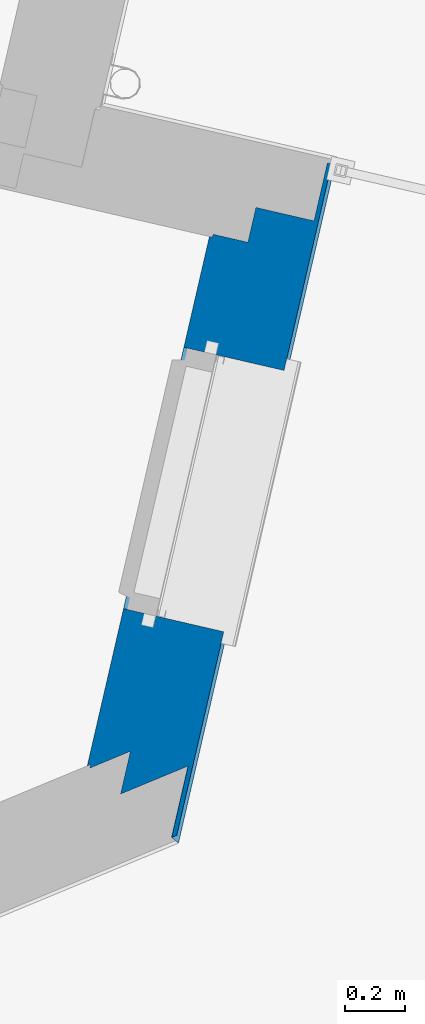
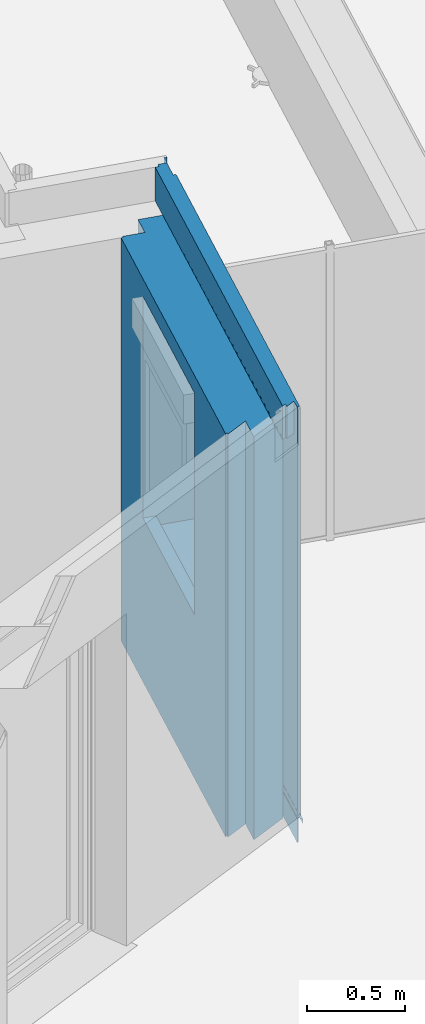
# One storey, part 52 of 119: 1 wall, 1 opening.
"""IFC2X3 building model written with IfcOpenShell, lengths in metres."""

from ifc_helpers import new_model, entity, si_unit, converted_unit, derived_unit, money_unit, direction, frame, origin_with_axes, place, context, subcontext, project, spatial, faceted_brep, material, material_list, type_object, element, save


model = new_model("IFC2X3")

# Units and contexts
model_context = context("Model", 3, precision=1e-05, world=origin_with_axes(), true_north=direction((0.0, 1.0)))
body_context = subcontext(model_context, "Body", "Model", "MODEL_VIEW")
ifc_project = project(units=[si_unit("LENGTHUNIT", "METRE"), si_unit("AREAUNIT", "SQUARE_METRE"), si_unit("VOLUMEUNIT", "CUBIC_METRE"), converted_unit("PLANEANGLEUNIT", "DEGREE", entity("IfcPlaneAngleMeasure", 0.0174532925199), si_unit("PLANEANGLEUNIT", "RADIAN"), dimensions=[0, 0, 0, 0, 0, 0, 0]), si_unit("SOLIDANGLEUNIT", "STERADIAN"), money_unit("EUR"), converted_unit("TIMEUNIT", "Year", entity("IfcTimeMeasure", 31556926.0), si_unit("TIMEUNIT", "SECOND"), dimensions=[0, 0, 1, 0, 0, 0, 0]), si_unit("MASSUNIT", "GRAM", prefix="KILO"), si_unit("THERMODYNAMICTEMPERATUREUNIT", "DEGREE_CELSIUS"), si_unit("LUMINOUSINTENSITYUNIT", "LUMEN"), si_unit("ENERGYUNIT", "JOULE", prefix="MEGA"), derived_unit("THERMALCONDUCTANCEUNIT", [(si_unit("POWERUNIT", "WATT"), 1), (si_unit("LENGTHUNIT", "METRE"), -1), (si_unit("THERMODYNAMICTEMPERATUREUNIT", "KELVIN"), -1)]), derived_unit("SPECIFICHEATCAPACITYUNIT", [(si_unit("ENERGYUNIT", "JOULE"), 1), (si_unit("MASSUNIT", "GRAM", prefix="KILO"), -1), (si_unit("THERMODYNAMICTEMPERATUREUNIT", "KELVIN"), -1)]), derived_unit("MASSDENSITYUNIT", [(si_unit("MASSUNIT", "GRAM", prefix="KILO"), 1), (si_unit("VOLUMEUNIT", "CUBIC_METRE"), -1)])], contexts=[model_context])

# Site, building, storey
site_placement = place(None, origin_with_axes())
site = spatial("IfcSite", under=ifc_project, at=site_placement, Name="Site", CompositionType="ELEMENT")
building_placement = place(site_placement, origin_with_axes())
building = spatial("IfcBuilding", under=site, at=building_placement, Name="Bâtiment", CompositionType="ELEMENT")
storey_placement = place(building_placement, origin_with_axes())
storey = spatial("IfcBuildingStorey", under=building, at=storey_placement, Name="Rez-de-chaussée", CompositionType="ELEMENT", Elevation=0.0)

# Wall, opening
ifc_material_1 = material(Name="Métal - Aluminium")
ifc_material_2 = material(Name="Finition ext - Crépis")
ifc_material_3 = material(Name="Etanchéité - Bitume")
ifc_material_4 = material(Name="Béton cellulaire")
ifc_material_5 = material(Name="Mortier")
ifc_material_6 = material(Name="Isolation - Polystyrène expansé")
ifc_material_7 = material(Name="Bloc ELITHERM")
ifc_material_8 = material(Name="Isolation - Polystyrène extrudé")
ifc_material_9 = material(Name="Finition int - Plaque de plâtre")
ifc_material_list = material_list([ifc_material_1, ifc_material_2, ifc_material_3, ifc_material_4, ifc_material_5, ifc_material_6, ifc_material_7, ifc_material_8, ifc_material_9])
wall_type = type_object("IfcWallType", Name="Mur ALKERN + planelle 21 TERRASSE RDC 356 x 2720", PredefinedType="USERDEFINED")
wall_placement = place(storey_placement, frame((-7.07975707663, -17.8242085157, 0.0), z_axis=(0.0, 0.0, 1.0), x_axis=(-0.224876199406, -0.974387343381, 0.0)))
wall = element("IfcWall", 1, at=wall_placement, inside=storey, type_object=wall_type, material=ifc_material_list, Name="Mue bloc ALKERN isolé", ObjectType="SOLIDWALL", context=body_context, shape_type="Brep", body=[
    faceted_brep([(0.0310453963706, -0.0300000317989, 0.176532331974), (0.0310453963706, -0.03, 0.207793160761), (2.35270577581, -0.03, 0.207793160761), (2.35270579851, -0.0300000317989, 0.176532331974), (0.0310453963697, -0.0310453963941, 0.207793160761), (0.0310453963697, -0.0310453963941, 0.176532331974), (2.35345206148, -0.0310453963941, 0.207793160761), (2.35345206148, -0.0310453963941, 0.176532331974), (0.0310453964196, -0.0300000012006, 0.170774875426), (2.35270579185, -0.0300000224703, 0.170774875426), (0.0310453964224, -0.0264705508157, 0.169727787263), (0.0310453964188, -0.0310453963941, 0.169727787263), (2.35345206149, -0.0310453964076, 0.169727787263), (2.35018617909, -0.0264705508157, 0.169727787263), (2.35071589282, -0.0254132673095, 0.169414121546), (2.3616671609, -0.0035607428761, 0.162931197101), (0.00839011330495, -0.0035607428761, 0.162931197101), (0.0299999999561, -0.0254132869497, 0.169414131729), (0.0299999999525, -0.03, 0.169414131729), (2.35399024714, -0.0299999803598, 0.169414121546), (2.36696555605, -0.00479482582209, 0.161852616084), (2.36608457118, -0.0035607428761, 0.161852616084), (2.36608457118, -0.0035607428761, 0.160000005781), (2.36608457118, -0.0035607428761, 0.133633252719), (0.00479482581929, -0.0035607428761, 0.133633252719), (0.00479482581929, -0.0035607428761, 0.160000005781), (0.00479482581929, -0.0035607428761, 0.161852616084), (0.00479482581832, -0.00479482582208, 0.161852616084), (2.36696555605, -0.00479482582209, 0.160000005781), (2.36696555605, -0.00479482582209, 0.133633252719), (0.00479482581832, -0.00479482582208, 0.133633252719), (0.00479482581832, -0.00479482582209, 0.160000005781)], [[[0, 1, 2, 3]], [[4, 1, 0, 5]], [[1, 4, 6, 2]], [[6, 7, 3, 2]], [[8, 0, 3, 9]], [[5, 0, 8, 10, 11]], [[4, 5, 11, 12, 7, 6]], [[13, 9, 3, 7, 12]], [[14, 15, 16, 17, 10, 8, 9, 13]], [[10, 17, 18, 11]], [[11, 18, 19, 12]], [[12, 19, 14, 13]], [[14, 19, 20, 21, 15]], [[15, 21, 22, 23, 24, 25, 26, 16]], [[17, 16, 26, 27, 18]], [[20, 19, 18, 27]], [[21, 20, 28, 22]], [[28, 29, 23, 22]], [[30, 24, 23, 29]], [[24, 30, 31, 25]], [[31, 27, 26, 25]], [[27, 31, 30, 29, 28, 20]]]),
    faceted_brep([(0.741995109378, -0.0299999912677, 1.02), (0.741995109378, -0.0150000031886, 1.02), (0.741995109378, -0.0150000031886, 2.22), (0.741995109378, -0.0299999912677, 2.22), (0.741995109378, -0.0150000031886, 0.96), (0.741995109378, -0.0299999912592, 0.96), (2.34328201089, -0.0150000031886, 0.207793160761), (2.34328201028, -0.0150000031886, 0.176532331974), (0.0300000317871, -0.0150000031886, 0.176532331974), (0.0300000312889, -0.0150000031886, 0.207793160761), (0.0299999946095, -0.0150000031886, 2.50955), (0.029999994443, -0.0150000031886, 2.51999999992), (0.0299999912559, -0.0150000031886, 2.72), (0.0304047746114, -0.0150000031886, 2.72), (0.0304047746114, -0.0150000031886, 2.51999999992), (0.0304047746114, -0.0150000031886, 2.50955), (0.0304047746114, -0.0150000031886, 2.50872065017), (0.0304047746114, -0.0150000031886, 2.5), (0.15568021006, -0.0150000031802, 2.5), (0.17542378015, -0.015000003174, 2.5), (0.190425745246, -0.0150000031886, 2.5), (0.190425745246, -0.0150000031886, 2.50872065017), (0.190425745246, -0.0150000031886, 2.50955), (0.190425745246, -0.0150000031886, 2.51999999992), (0.190425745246, -0.0150000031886, 2.72), (2.34328206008, -0.0150000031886, 2.72), (2.34328205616, -0.0150000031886, 2.51999999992), (2.34328205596, -0.0150000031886, 2.50955), (1.64199510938, -0.0150000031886, 0.96), (1.64199510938, -0.0150000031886, 1.02), (1.64199510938, -0.0150000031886, 2.22), (1.64199510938, -0.0299999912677, 2.22), (0.190668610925, -0.0299999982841, 2.50872065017), (0.190668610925, -0.0299999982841, 2.5), (0.175666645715, -0.0299999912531, 2.5), (0.155923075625, -0.0299999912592, 2.5), (0.0306476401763, -0.0299999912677, 2.5), (0.0306476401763, -0.0299999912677, 2.50872065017), (0.0306476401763, -0.0299999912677, 2.50955), (0.0306476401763, -0.0299999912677, 2.51999999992), (0.0306476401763, -0.0299999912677, 2.72), (0.0299999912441, -0.0299999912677, 2.72), (0.0299999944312, -0.0299999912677, 2.51999999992), (0.0299999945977, -0.0299999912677, 2.50955), (0.0300000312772, -0.0299999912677, 0.207793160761), (0.0300000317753, -0.0300000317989, 0.176532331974), (2.35399020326, -0.0300000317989, 0.176532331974), (2.35399017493, -0.0299999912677, 0.207793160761), (2.35399022, -0.0299999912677, 2.50955), (2.35399022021, -0.0299999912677, 2.51999999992), (2.35399022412, -0.0299999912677, 2.72), (0.190668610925, -0.0299999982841, 2.72), (0.190668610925, -0.0299999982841, 2.51999999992), (0.190668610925, -0.0299999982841, 2.50955), (1.64199510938, -0.0299999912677, 1.02), (1.64199510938, -0.0299999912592, 0.96)], [[[0, 1, 2, 3]], [[4, 1, 0, 5]], [[6, 7, 8, 9, 10, 11, 12, 13, 14, 15, 16, 17, 18, 19, 20, 21, 22, 23, 24, 25, 26, 27], [28, 29, 30, 2, 1, 4]], [[30, 31, 3, 2]], [[32, 33, 34, 35, 36, 37, 38, 39, 40, 41, 42, 43, 44, 45, 46, 47, 48, 49, 50, 51, 52, 53], [5, 0, 3, 31, 54, 55]], [[28, 4, 5, 55]], [[47, 46, 7, 6]], [[8, 7, 46, 45]], [[9, 8, 45, 44]], [[10, 9, 44, 43]], [[11, 10, 43, 42]], [[12, 11, 42, 41]], [[13, 12, 41, 40]], [[13, 40, 39, 14]], [[39, 38, 15, 14]], [[38, 37, 16, 15]], [[37, 36, 17, 16]], [[17, 36, 35, 18]], [[35, 34, 19, 18]], [[34, 33, 20, 19]], [[21, 20, 33, 32]], [[22, 21, 32, 53]], [[23, 22, 53, 52]], [[24, 23, 52, 51]], [[51, 50, 25, 24]], [[25, 50, 49, 26]], [[49, 48, 27, 26]], [[48, 47, 6, 27]], [[54, 29, 28, 55]], [[29, 54, 31, 30]]]),
    faceted_brep([(2.34685142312, -0.02, 0.01), (0.0300000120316, -0.02, 0.01), (0.0300000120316, -0.02, 0.133633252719), (0.0300000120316, -0.02, 0.160000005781), (2.34685142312, -0.02, 0.160000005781), (2.34685142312, -0.02, 0.133633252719), (0.0299999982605, -0.0299999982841, 0.01), (2.35399022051, -0.0299999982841, 0.01), (0.0300000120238, -0.0300000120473, 0.133633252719), (0.0300000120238, -0.0300000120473, 0.160000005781), (2.35399021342, -0.0300000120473, 0.160000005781), (2.35399021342, -0.0300000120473, 0.133633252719)], [[[0, 1, 2, 3, 4, 5]], [[6, 1, 0, 7]], [[1, 6, 8, 2]], [[8, 9, 3, 2]], [[4, 3, 9, 10]], [[11, 5, 4, 10]], [[7, 0, 5, 11]], [[6, 7, 11, 10, 9, 8]]]),
    faceted_brep([(0.0780000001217, -0.03, 2.51999999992), (0.0780000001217, -0.03, 2.72), (2.29501421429, -0.03, 2.72), (2.29501421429, -0.03, 2.51999999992), (0.0780000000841, -0.0780000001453, 2.72), (0.0780000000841, -0.0780000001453, 2.51999999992), (2.32928036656, -0.0780000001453, 2.72), (2.32928036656, -0.0780000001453, 2.51999999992)], [[[0, 1, 2, 3]], [[4, 1, 0, 5]], [[1, 4, 6, 2]], [[3, 2, 6, 7]], [[5, 0, 3, 7]], [[4, 5, 7, 6]]]),
    faceted_brep([(0.0979999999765, -0.03, 2.50955), (0.0979999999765, -0.03, 2.52), (2.27044087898, -0.03, 2.52), (2.27044087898, -0.03, 2.50955), (0.0979999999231, -0.098, 2.52), (0.0979999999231, -0.098, 2.50955), (2.31898459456, -0.098, 2.52), (2.31898459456, -0.098, 2.50955)], [[[0, 1, 2, 3]], [[4, 1, 0, 5]], [[1, 4, 6, 2]], [[3, 2, 6, 7]], [[5, 0, 3, 7]], [[4, 5, 7, 6]]]),
    faceted_brep([(0.0980000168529, -0.0980000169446, 2.51999999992), (0.0980000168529, -0.0980000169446, 2.72), (0.0979999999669, -0.0780000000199, 2.72), (0.0979999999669, -0.0780000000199, 2.51999999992), (2.29864567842, -0.0975092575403, 2.72), (2.29864567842, -0.0975092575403, 2.51999999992), (2.29899760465, -0.0980000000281, 2.72), (2.31898459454, -0.0980000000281, 2.72), (2.30470703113, -0.0780000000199, 2.72), (2.30470703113, -0.0780000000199, 2.51999999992), (2.31898459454, -0.0980000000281, 2.51999999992), (2.29899760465, -0.0980000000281, 2.51999999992)], [[[0, 1, 2, 3]], [[4, 1, 0, 5]], [[4, 6, 7, 8, 2, 1]], [[2, 8, 9, 3]], [[5, 0, 3, 9, 10, 11]], [[6, 4, 5, 11]], [[6, 11, 10, 7]], [[8, 7, 10, 9]]]),
    faceted_brep([(0.741995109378, -0.229999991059, 1.02), (0.741995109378, -0.03, 1.02), (0.741995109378, -0.03, 2.22), (0.741995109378, -0.218560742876, 2.22), (0.741995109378, -0.229999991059, 2.22), (0.741995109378, -0.03, 0.96), (0.741995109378, -0.229999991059, 0.96), (2.10825687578, -0.03, 0.207793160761), (0.229999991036, -0.03, 0.207793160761), (0.229999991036, -0.03, 2.50955001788), (2.10825687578, -0.03, 2.50955001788), (1.64199510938, -0.03, 0.96), (1.64199510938, -0.03, 1.02), (1.64199510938, -0.03, 2.22), (1.64199510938, -0.218560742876, 2.22), (0.741995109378, -0.218560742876, 2.4), (0.741995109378, -0.229999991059, 2.4), (0.229999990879, -0.229999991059, 0.133633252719), (0.229999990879, -0.229999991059, 0.0), (2.25103250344, -0.229999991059, 0.0), (2.25103250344, -0.229999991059, 0.133633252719), (2.25103250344, -0.229999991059, 0.160000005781), (2.25103250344, -0.229999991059, 0.169414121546), (2.25103250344, -0.229999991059, 0.176532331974), (2.25103250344, -0.229999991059, 0.207793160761), (2.25103250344, -0.229999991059, 2.50955001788), (0.229999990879, -0.229999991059, 2.50955001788), (0.229999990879, -0.229999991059, 0.207793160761), (0.229999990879, -0.229999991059, 0.176532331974), (0.229999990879, -0.229999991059, 0.169414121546), (0.229999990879, -0.229999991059, 0.160000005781), (1.64199510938, -0.229999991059, 2.4), (1.64199510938, -0.229999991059, 2.22), (1.64199510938, -0.229999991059, 1.02), (1.64199510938, -0.229999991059, 0.96), (2.10900315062, -0.0310453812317, 0.207793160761), (0.229999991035, -0.0310453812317, 0.207793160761), (0.229999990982, -0.0979999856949, 2.50955001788), (2.15680058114, -0.0979999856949, 2.50955001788), (1.64199510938, -0.218560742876, 2.4), (0.229999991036, -0.0300000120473, 0.133633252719), (0.229999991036, -0.03, 0.0), (2.10825687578, -0.03, 0.0), (2.10825688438, -0.0300000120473, 0.133633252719), (2.10825688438, -0.0300000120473, 0.160000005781), (2.10825688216, -0.0300000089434, 0.169414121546), (2.10900315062, -0.0310453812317, 0.169727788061), (2.10900315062, -0.0310453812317, 0.176532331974), (0.229999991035, -0.0310453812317, 0.176532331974), (0.229999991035, -0.0310453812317, 0.169727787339), (0.229999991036, -0.0300000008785, 0.169414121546), (0.229999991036, -0.0300000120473, 0.160000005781)], [[[0, 1, 2, 3, 4]], [[5, 1, 0, 6]], [[7, 8, 9, 10], [11, 12, 13, 2, 1, 5]], [[3, 2, 13, 14]], [[3, 15, 16, 4]], [[17, 18, 19, 20, 21, 22, 23, 24, 25, 26, 27, 28, 29, 30], [6, 0, 4, 16, 31, 32, 33, 34]], [[11, 5, 6, 34]], [[35, 36, 8, 7]], [[36, 27, 26, 37, 9, 8]], [[10, 9, 37, 38]], [[10, 38, 25, 24, 35, 7]], [[33, 12, 11, 34]], [[12, 33, 32, 14, 13]], [[14, 39, 15, 3]], [[16, 15, 39, 31]], [[18, 17, 40, 41]], [[19, 18, 41, 42]], [[42, 43, 20, 19]], [[20, 43, 44, 21]], [[44, 45, 22, 21]], [[46, 47, 23, 22, 45]], [[24, 23, 47, 35]], [[38, 37, 26, 25]], [[28, 27, 36, 48]], [[49, 50, 29, 28, 48]], [[50, 51, 30, 29]], [[51, 40, 17, 30]], [[32, 31, 39, 14]], [[49, 48, 36, 35, 47, 46]], [[51, 44, 43, 42, 41, 40]], [[50, 45, 44, 51]], [[49, 46, 45, 50]]]),
    faceted_brep([(0.741995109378, -0.248560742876, 1.02), (0.741995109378, -0.22999997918, 1.02), (0.741995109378, -0.22999997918, 2.22), (0.741995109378, -0.248560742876, 2.22), (0.741995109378, -0.22999997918, 0.96), (0.741995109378, -0.289560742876, 1.02), (0.741995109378, -0.289560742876, 0.96), (0.350000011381, -0.22999997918, 2.50955001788), (2.10359245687, -0.22999997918, 2.50955001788), (2.10359245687, -0.22999997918, 0.207793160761), (2.10359245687, -0.22999997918, 0.176532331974), (2.10359245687, -0.22999997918, 0.169414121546), (2.10359245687, -0.22999997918, 0.160000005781), (2.10359245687, -0.22999997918, 0.133633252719), (2.10359245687, -0.22999997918, 0.0), (0.350000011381, -0.22999997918, 0.0), (0.350000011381, -0.22999997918, 0.133633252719), (0.350000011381, -0.22999997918, 0.160000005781), (0.350000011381, -0.22999997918, 0.169414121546), (0.350000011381, -0.22999997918, 0.176532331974), (0.350000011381, -0.22999997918, 0.207793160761), (1.64199510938, -0.22999997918, 0.96), (1.64199510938, -0.22999997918, 1.02), (1.64199510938, -0.22999997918, 2.22), (1.64199510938, -0.22999997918, 2.4), (0.741995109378, -0.22999997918, 2.4), (0.741995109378, -0.350000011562, 2.4), (0.741995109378, -0.350000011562, 2.22), (0.741995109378, -0.350000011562, 1.02), (1.64199510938, -0.289560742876, 1.02), (1.64199510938, -0.289560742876, 0.96), (0.350000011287, -0.350000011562, 2.50955001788), (2.18925786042, -0.350000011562, 2.50955001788), (2.18925786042, -0.350000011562, 0.207793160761), (2.18925786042, -0.350000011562, 0.176532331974), (2.18925786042, -0.350000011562, 0.169414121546), (2.18925786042, -0.350000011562, 0.160000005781), (2.18925786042, -0.350000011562, 0.133633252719), (2.18925786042, -0.350000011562, 0.0), (0.350000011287, -0.350000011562, 0.0), (0.350000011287, -0.350000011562, 0.133633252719), (0.350000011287, -0.350000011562, 0.160000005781), (0.350000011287, -0.350000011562, 0.169414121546), (0.350000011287, -0.350000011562, 0.176532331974), (0.350000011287, -0.350000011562, 0.207793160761), (1.64199510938, -0.248560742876, 1.02), (1.64199510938, -0.248560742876, 2.22), (1.64199510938, -0.350000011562, 2.22), (1.64199510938, -0.350000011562, 2.4), (1.64199510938, -0.350000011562, 1.02)], [[[0, 1, 2, 3]], [[4, 1, 0, 5, 6]], [[7, 8, 9, 10, 11, 12, 13, 14, 15, 16, 17, 18, 19, 20], [21, 22, 23, 24, 25, 2, 1, 4]], [[26, 27, 3, 2, 25]], [[5, 0, 3, 27, 28]], [[5, 29, 30, 6]], [[21, 4, 6, 30]], [[8, 7, 31, 32]], [[9, 8, 32, 33]], [[9, 33, 34, 10]], [[34, 35, 11, 10]], [[36, 12, 11, 35]], [[13, 12, 36, 37]], [[38, 14, 13, 37]], [[15, 14, 38, 39]], [[39, 40, 16, 15]], [[40, 41, 17, 16]], [[18, 17, 41, 42]], [[19, 18, 42, 43]], [[43, 44, 20, 19]], [[44, 31, 7, 20]], [[45, 22, 21, 30, 29]], [[22, 45, 46, 23]], [[46, 47, 48, 24, 23]], [[24, 48, 26, 25]], [[44, 43, 42, 41, 40, 39, 38, 37, 36, 35, 34, 33, 32, 31], [28, 27, 26, 48, 47, 49]], [[29, 5, 28, 49]], [[45, 29, 49, 47, 46]]]),
    faceted_brep([(2.17697122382, -0.350000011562, 0.133633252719), (2.17697122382, -0.350000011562, 0.0), (0.359999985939, -0.350000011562, 0.0), (0.359999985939, -0.350000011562, 0.133633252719), (0.359999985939, -0.350000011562, 0.160000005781), (0.359999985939, -0.350000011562, 0.169414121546), (0.359999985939, -0.350000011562, 0.176532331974), (0.359999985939, -0.350000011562, 0.207793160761), (0.359999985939, -0.350000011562, 2.50955001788), (2.17697122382, -0.350000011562, 2.50955001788), (2.17697122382, -0.350000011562, 0.207793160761), (2.17697122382, -0.350000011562, 0.176532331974), (2.17697122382, -0.350000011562, 0.169414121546), (2.17697122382, -0.350000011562, 0.160000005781), (1.64199510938, -0.350000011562, 2.22), (1.64199510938, -0.350000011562, 2.4), (0.741995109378, -0.350000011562, 2.4), (0.741995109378, -0.350000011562, 2.22), (0.741995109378, -0.350000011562, 1.02), (1.64199510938, -0.350000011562, 1.02), (2.18410998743, -0.359999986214, 0.133633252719), (2.18410998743, -0.359999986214, 0.0), (0.359999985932, -0.359999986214, 0.0), (0.359999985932, -0.359999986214, 0.133633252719), (0.359999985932, -0.359999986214, 0.160000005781), (0.359999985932, -0.359999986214, 0.169414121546), (0.359999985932, -0.359999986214, 0.176532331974), (0.359999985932, -0.359999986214, 0.207793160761), (0.359999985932, -0.359999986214, 2.50955001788), (2.18410998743, -0.359999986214, 2.50955001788), (2.18410998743, -0.359999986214, 0.207793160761), (2.18410998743, -0.359999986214, 0.176532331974), (2.18410998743, -0.359999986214, 0.169414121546), (2.18410998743, -0.359999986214, 0.160000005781), (1.64199510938, -0.359999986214, 2.22), (1.64199510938, -0.359999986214, 2.4), (0.741995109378, -0.359999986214, 2.4), (0.741995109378, -0.359999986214, 2.22), (0.741995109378, -0.359999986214, 1.02), (1.64199510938, -0.359999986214, 1.02)], [[[0, 1, 2, 3, 4, 5, 6, 7, 8, 9, 10, 11, 12, 13], [14, 15, 16, 17, 18, 19]], [[1, 0, 20, 21]], [[2, 1, 21, 22]], [[3, 2, 22, 23]], [[23, 24, 4, 3]], [[24, 25, 5, 4]], [[6, 5, 25, 26]], [[7, 6, 26, 27]], [[8, 7, 27, 28]], [[28, 29, 9, 8]], [[9, 29, 30, 10]], [[30, 31, 11, 10]], [[11, 31, 32, 12]], [[13, 12, 32, 33]], [[20, 0, 13, 33]], [[15, 14, 34, 35]], [[16, 15, 35, 36]], [[17, 16, 36, 37]], [[17, 37, 38, 18]], [[18, 38, 39, 19]], [[34, 14, 19, 39]], [[21, 20, 33, 32, 31, 30, 29, 28, 27, 26, 25, 24, 23, 22], [35, 34, 39, 38, 37, 36]]]),
])
opening_placement = place(wall_placement, frame((1.19199510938, 0.0, 1.02), z_axis=(0.0, 0.0, 1.0), x_axis=(1.0, 0.0, 0.0)))
element("IfcOpeningElement", 2, at=opening_placement, cuts=wall, Name="MEN 29", context=body_context, shape_type="Brep", body=[
    faceted_brep([(-0.45, -0.248560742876, 0.0), (0.45, -0.248560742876, 0.0), (0.45, -0.849999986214, 0.0), (-0.45, -0.849999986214, 0.0), (-0.45, -0.248560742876, 1.2), (0.45, -0.248560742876, 1.2), (0.45, -0.849999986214, 1.2), (-0.45, -0.849999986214, 1.2)], [[[0, 1, 2, 3]], [[0, 4, 5, 1]], [[1, 5, 6, 2]], [[3, 2, 6, 7]], [[4, 0, 3, 7]], [[5, 4, 7, 6]]]),
    faceted_brep([(-0.45, -0.248560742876, 0.0), (-0.45, -0.248560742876, 1.2), (-0.45, 0.352878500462, 1.2), (-0.45, 0.352878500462, 0.0), (0.45, -0.248560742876, 0.0), (0.45, -0.248560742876, 1.2), (0.45, 0.352878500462, 1.2), (0.45, 0.352878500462, 0.0)], [[[0, 1, 2, 3]], [[0, 4, 5, 1]], [[1, 5, 6, 2]], [[3, 2, 6, 7]], [[4, 0, 3, 7]], [[5, 4, 7, 6]]]),
    faceted_brep([(-0.45, -0.248560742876, 0.0), (-0.45, -0.248560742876, 1.2), (-0.45, 0.352878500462, 1.2), (-0.45, 0.352878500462, 0.0), (0.45, -0.248560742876, 0.0), (0.45, -0.248560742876, 1.2), (0.45, 0.352878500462, 1.2), (0.45, 0.352878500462, 0.0)], [[[0, 1, 2, 3]], [[0, 4, 5, 1]], [[1, 5, 6, 2]], [[3, 2, 6, 7]], [[4, 0, 3, 7]], [[5, 4, 7, 6]]]),
    faceted_brep([(-0.45, -0.218560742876, 1.2), (0.45, -0.218560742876, 1.2), (0.45, -0.819999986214, 1.2), (-0.45, -0.819999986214, 1.2), (-0.45, -0.218560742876, 1.38), (0.45, -0.218560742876, 1.38), (0.45, -0.819999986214, 1.38), (-0.45, -0.819999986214, 1.38)], [[[0, 1, 2, 3]], [[0, 4, 5, 1]], [[1, 5, 6, 2]], [[3, 2, 6, 7]], [[4, 0, 3, 7]], [[5, 4, 7, 6]]]),
    faceted_brep([(-0.45, -0.289560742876, 0.0), (0.45, -0.289560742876, 0.0), (0.45, 0.311878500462, 0.0), (-0.45, 0.311878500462, 0.0), (-0.45, -0.289560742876, -0.06), (0.45, -0.289560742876, -0.06), (0.45, 0.311878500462, -0.06), (-0.45, 0.311878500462, -0.06)], [[[0, 1, 2, 3]], [[0, 4, 5, 1]], [[1, 5, 6, 2]], [[3, 2, 6, 7]], [[4, 0, 3, 7]], [[5, 4, 7, 6]]]),
])

save(model, "model.ifc")
